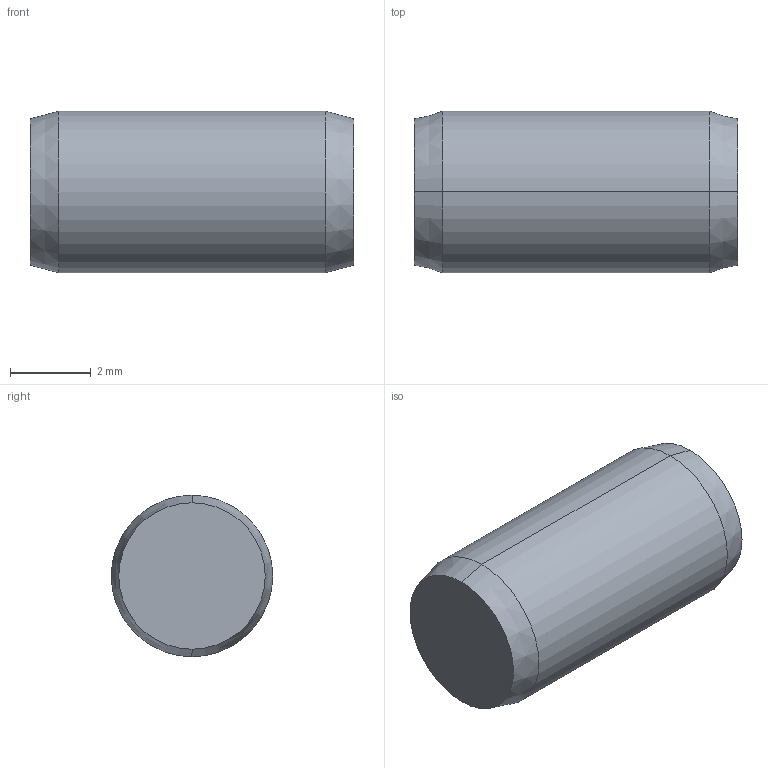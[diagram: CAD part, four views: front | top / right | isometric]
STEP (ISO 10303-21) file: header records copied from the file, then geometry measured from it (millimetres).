
FILE_DESCRIPTION (( 'STEP AP203' ), '1' );
FILE_NAME ('P1206.040-008.step', '2017-06-14T08:08:43', ( 'User' ), ( '' ), 'SwSTEP 2.0', 'SolidWorks 2009', '' );
FILE_SCHEMA (( 'CONFIG_CONTROL_DESIGN' ));
Length unit declared in the file: millimetre
Products named in the file (1): P1206.040-008
Bounding box: 8 x 4 x 4 mm (x, y, z)
Volume: 98.9 mm3; surface area: 120.9 mm2
Topology: 1 solids, 1 shells, 8 faces, 14 edges, 8 vertices
Faces by surface type: cone 4, cylinder 2, plane 2
Entity records: 271 total; most frequent: DIRECTION 40, CARTESIAN_POINT 31, ORIENTED_EDGE 28, AXIS2_PLACEMENT_3D 17, EDGE_CURVE 14, ADVANCED_FACE 8, EDGE_LOOP 8, VERTEX_POINT 8
